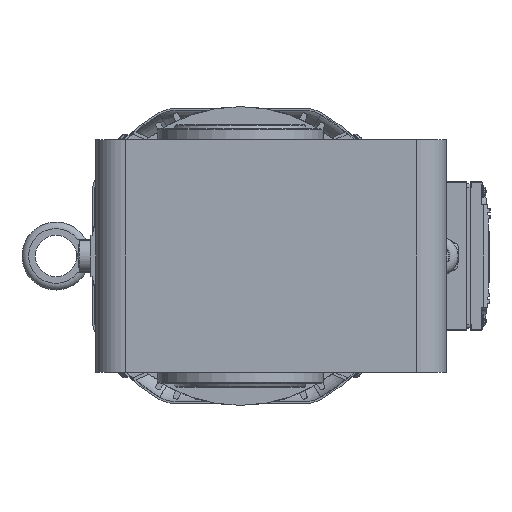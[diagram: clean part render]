
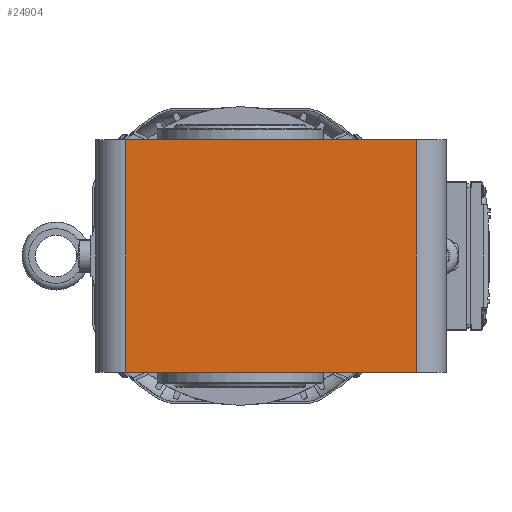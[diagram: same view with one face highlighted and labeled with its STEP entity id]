
A CAD part, left-side view. The second image highlights one B-rep face of the part: STEP entity #24904.
In plain terms, the highlighted planar face has unit normal (-1, 0, 0).
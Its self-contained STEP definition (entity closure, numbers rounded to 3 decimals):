
#690=PLANE('',#27357);
#1825=FACE_OUTER_BOUND('',#3310,.T.);
#3310=EDGE_LOOP('',(#19913,#19914,#19915,#19916));
#6602=LINE('',#42325,#8536);
#6627=LINE('',#42435,#8561);
#6628=LINE('',#42439,#8562);
#6629=LINE('',#42440,#8563);
#8536=VECTOR('',#33183,175.);
#8561=VECTOR('',#33298,140.);
#8562=VECTOR('',#33303,140.);
#8563=VECTOR('',#33304,175.);
#11094=VERTEX_POINT('',#42322);
#11095=VERTEX_POINT('',#42324);
#11135=VERTEX_POINT('',#42434);
#11136=VERTEX_POINT('',#42438);
#14183=EDGE_CURVE('',#11095,#11094,#6602,.T.);
#14236=EDGE_CURVE('',#11095,#11135,#6627,.T.);
#14238=EDGE_CURVE('',#11136,#11094,#6628,.T.);
#14239=EDGE_CURVE('',#11136,#11135,#6629,.T.);
#19913=ORIENTED_EDGE('',*,*,#14236,.F.);
#19914=ORIENTED_EDGE('',*,*,#14183,.T.);
#19915=ORIENTED_EDGE('',*,*,#14238,.F.);
#19916=ORIENTED_EDGE('',*,*,#14239,.T.);
#24904=ADVANCED_FACE('',(#1825),#690,.T.);
#27357=AXIS2_PLACEMENT_3D('',#42437,#33301,#33302);
#33183=DIRECTION('',(0.,1.,0.));
#33298=DIRECTION('',(0.,0.,-1.));
#33301=DIRECTION('center_axis',(-1.,0.,0.));
#33302=DIRECTION('ref_axis',(0.,0.,1.));
#33303=DIRECTION('',(0.,0.,1.));
#33304=DIRECTION('',(0.,-1.,0.));
#42322=CARTESIAN_POINT('',(-221.984,45.437,70.));
#42324=CARTESIAN_POINT('',(-221.984,-129.563,70.));
#42325=CARTESIAN_POINT('',(-221.984,-129.563,70.));
#42434=CARTESIAN_POINT('',(-221.984,-129.563,-70.));
#42435=CARTESIAN_POINT('',(-221.984,-129.563,70.));
#42437=CARTESIAN_POINT('Origin',(-221.984,-147.563,-70.));
#42438=CARTESIAN_POINT('',(-221.984,45.437,-70.));
#42439=CARTESIAN_POINT('',(-221.984,45.437,-70.));
#42440=CARTESIAN_POINT('',(-221.984,45.437,-70.));
